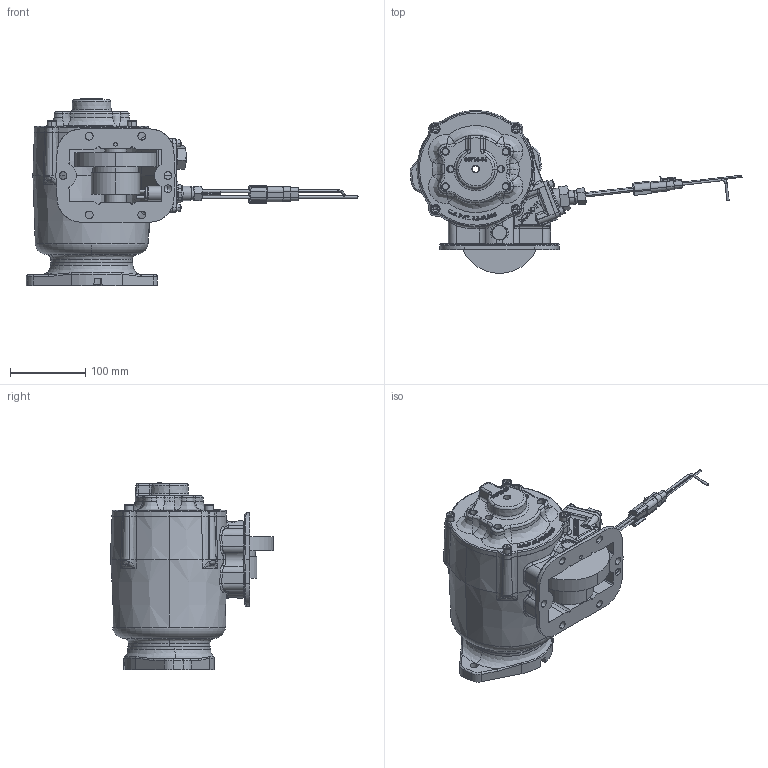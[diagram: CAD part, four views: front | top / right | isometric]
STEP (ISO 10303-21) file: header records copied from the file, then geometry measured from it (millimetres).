
FILE_DESCRIPTION (( 'STEP AP203' ), '1' );
FILE_NAME ('CS6S-A67XX-H1SS.STEP', '2013-07-23T15:33:52', ( '' ), ( '' ), 'SwSTEP 2.0', 'SolidWorks 2013', '' );
FILE_SCHEMA (( 'CONFIG_CONTROL_DESIGN' ));
Length unit declared in the file: millimetre
Products named in the file (3): CS6S-XXXXX-X1XS; 14t35464; CS6S-A67XX-H1SS
Assembly tree (2 placements, depth 2):
  CS6S-A67XX-H1SS
    CS6S-XXXXX-X1XS
    14t35464
Bounding box: 442.08 x 216.75 x 249.19 mm (x, y, z)
Volume: 1653504.5 mm3; surface area: 421613.2 mm2
Topology: 20 solids, 20 shells, 1883 faces, 4758 edges, 2968 vertices
Faces by surface type: bspline 641, plane 488, cylinder 487, cone 208, torus 45, sphere 14
Entity records: 124757 total; most frequent: CARTESIAN_POINT 84086, ORIENTED_EDGE 9400, DIRECTION 6604, EDGE_CURVE 4700, VERTEX_POINT 2968, AXIS2_PLACEMENT_3D 2411, EDGE_LOOP 2094, ADVANCED_FACE 1883
